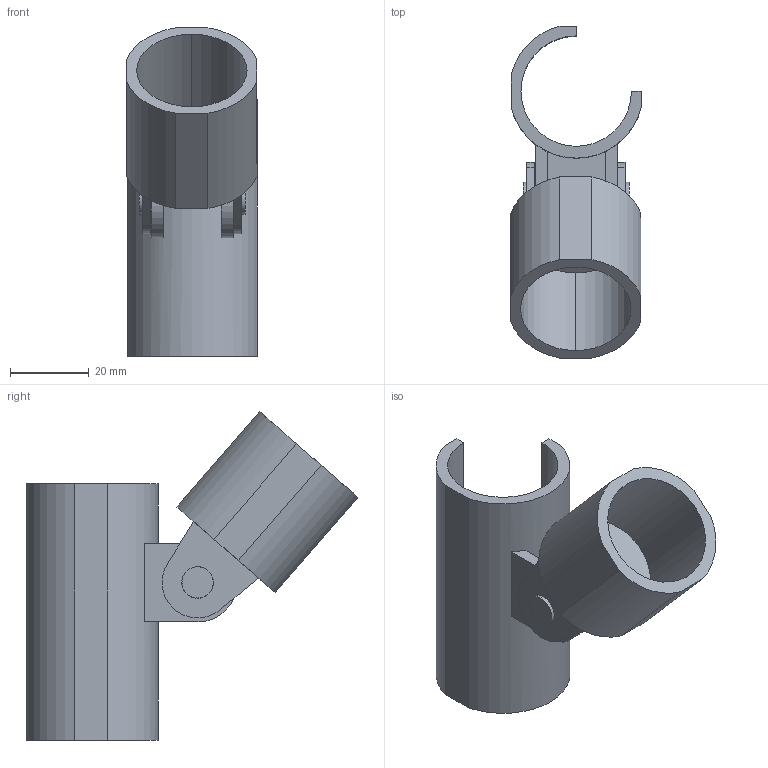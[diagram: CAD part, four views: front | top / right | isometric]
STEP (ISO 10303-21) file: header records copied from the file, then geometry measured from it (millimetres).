
FILE_DESCRIPTION (( 'STEP AP214' ), '1' );
FILE_NAME ('PJ-403.STEP', '2023-09-12T11:09:22', ( 'catia' ), ( 'HP Inc.' ), 'SwSTEP 2.0', 'SolidWorks 2021', '' );
FILE_SCHEMA (( 'AUTOMOTIVE_DESIGN' ));
Length unit declared in the file: millimetre
Products named in the file (3): PJ-403B; PJ-403A; PJ-403
Assembly tree (2 placements, depth 2):
  PJ-403
    PJ-403A
    PJ-403B
Bounding box: 33.1 x 84.17 x 83.27 mm (x, y, z)
Volume: 28648.8 mm3; surface area: 21979.2 mm2
Topology: 2 solids, 2 shells, 60 faces, 150 edges, 100 vertices
Faces by surface type: plane 37, cylinder 23
Entity records: 1924 total; most frequent: DIRECTION 332, CARTESIAN_POINT 315, ORIENTED_EDGE 300, EDGE_CURVE 150, AXIS2_PLACEMENT_3D 117, VERTEX_POINT 100, VECTOR 98, LINE 98
